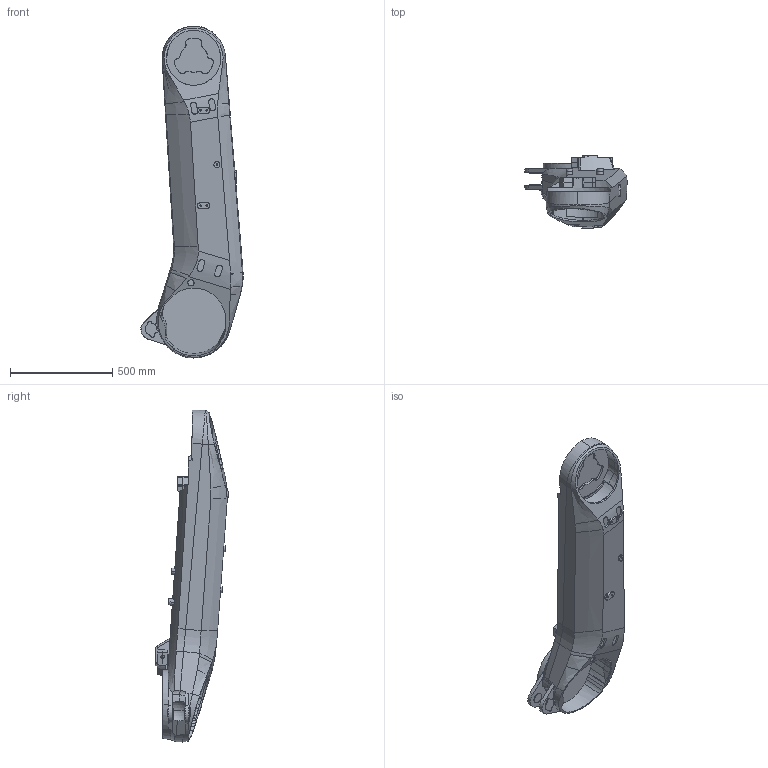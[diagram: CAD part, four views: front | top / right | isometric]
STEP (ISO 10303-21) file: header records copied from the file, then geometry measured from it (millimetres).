
FILE_DESCRIPTION (( 'STEP AP203' ), '1' );
FILE_NAME ('IRB6700_200_280_MH_link2_CAD_03.STEP', '2013-10-23T12:33:00', ( 'ABB' ), ( 'ABB' ), 'SwSTEP 2.0', 'SolidWorks 2012', '' );
FILE_SCHEMA (( 'CONFIG_CONTROL_DESIGN' ));
Length unit declared in the file: millimetre
Products named in the file (1): IRB6700_200_280_MH_link2_CAD_03
Bounding box: 499.87 x 358 x 1622.66 mm (x, y, z)
Volume: 74910971.4 mm3; surface area: 1980448 mm2
Topology: 1 solids, 1 shells, 517 faces, 1382 edges, 882 vertices
Faces by surface type: plane 235, bspline 181, cylinder 60, cone 39, sphere 2
Entity records: 39402 total; most frequent: CARTESIAN_POINT 28305, ORIENTED_EDGE 2728, DIRECTION 1539, EDGE_CURVE 1364, VERTEX_POINT 882, VECTOR 621, LINE 621, B_SPLINE_CURVE_WITH_KNOTS 558
